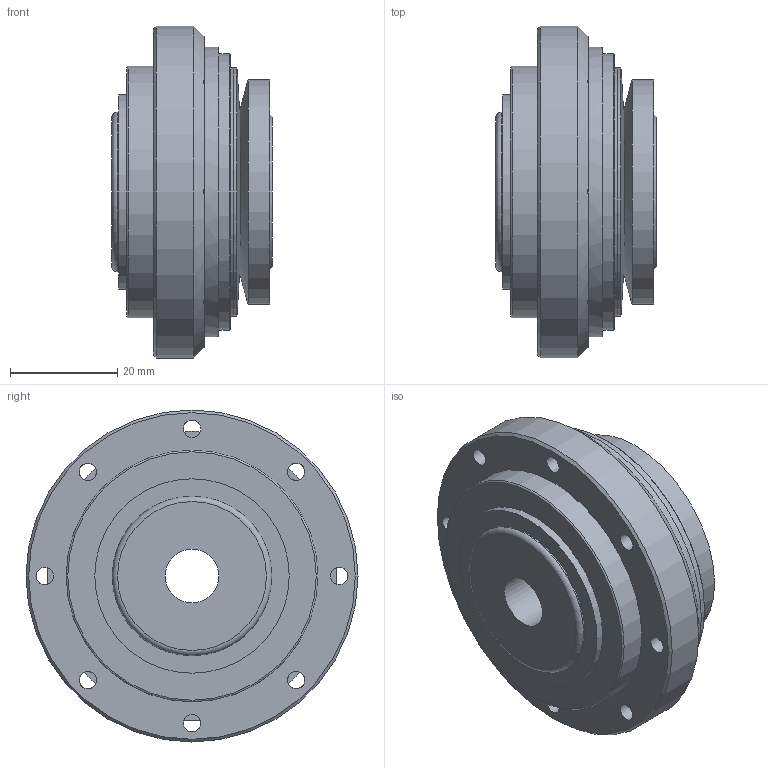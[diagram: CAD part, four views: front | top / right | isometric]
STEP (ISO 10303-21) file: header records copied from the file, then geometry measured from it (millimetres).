
FILE_DESCRIPTION(/* description */ ('Unknown'),/* implementation_level */ '2;1');
FILE_NAME(/* name */ 'SKVA-N 25',/* time_stamp */ '2025-02-12T13:31:45+01:00',/* author */ ('Unknown'),/* organization */ ('Unknown'),/* preprocessor_version */ 'ST-DEVELOPER v18.102',/* originating_system */ 'Solid Edge',/* authorisation */ 'Unknown');
FILE_SCHEMA (('AUTOMOTIVE_DESIGN {1 0 10303 214 3 1 1}'));
Length unit declared in the file: millimetre
Products named in the file (1): SKVA-N  25
Bounding box: 30 x 62 x 62 mm (x, y, z)
Volume: 57341.8 mm3; surface area: 12956.6 mm2
Topology: 1 solids, 1 shells, 54 faces, 134 edges, 80 vertices
Faces by surface type: plane 25, cylinder 16, cone 11, torus 2
Full cylindrical faces by diameter (mm): 3.242 x8, 10 x1, 29.8 x1, 36.321 x1, 42 x1, 47 x1, 51.7 x1, 54 x1, 62 x1
Entity records: 1872 total; most frequent: CARTESIAN_POINT 321, DIRECTION 264, ORIENTED_EDGE 186, AXIS2_PLACEMENT_3D 132, EDGE_LOOP 100, FACE_BOUND 100, EDGE_CURVE 93, CIRCLE 77
